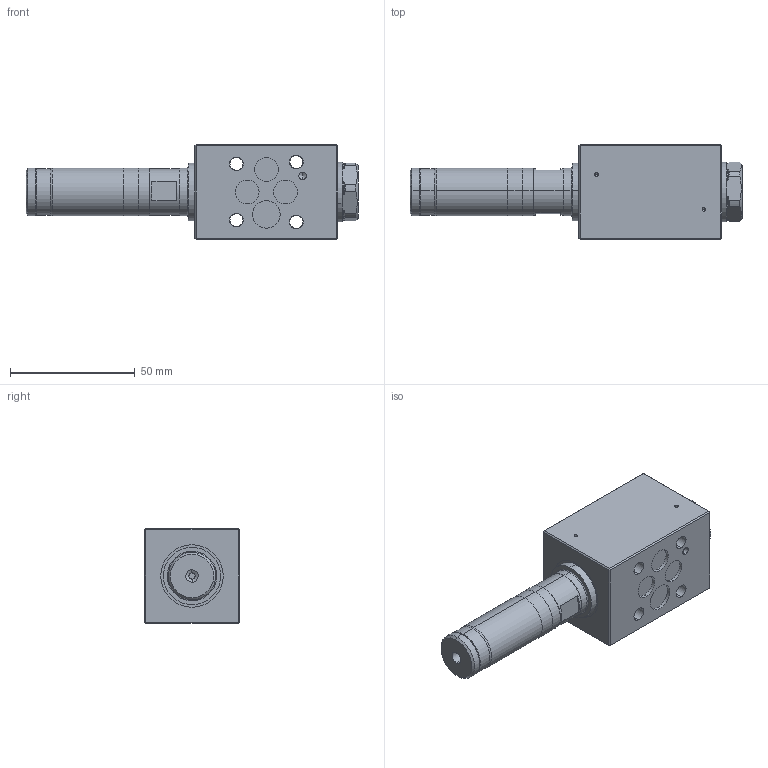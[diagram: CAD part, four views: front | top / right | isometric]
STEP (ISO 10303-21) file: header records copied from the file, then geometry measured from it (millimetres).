
FILE_DESCRIPTION (( 'STEP AP203' ), '1' );
FILE_NAME ('WDPFB04-4_2-Aside.step', '2013-07-08T11:40:46', ( 'Wandfluh AG' ), ( 'Wandfluh AG' ), 'SwSTEP 2.0', 'SolidWorks 2012', '' );
FILE_SCHEMA (( 'CONFIG_CONTROL_DESIGN' ));
Length unit declared in the file: millimetre
Products named in the file (1): WDPFB04-4_2-Aside
Bounding box: 133 x 38 x 38 mm (x, y, z)
Volume: 98840.7 mm3; surface area: 28558.2 mm2
Topology: 9 solids, 9 shells, 1209 faces, 3300 edges, 2147 vertices
Faces by surface type: plane 760, cylinder 334, cone 58, torus 42, bspline 15
Entity records: 39474 total; most frequent: CARTESIAN_POINT 7892, DIRECTION 6801, ORIENTED_EDGE 6584, EDGE_CURVE 3292, AXIS2_PLACEMENT_3D 2400, VERTEX_POINT 2147, LINE 2001, VECTOR 2001
